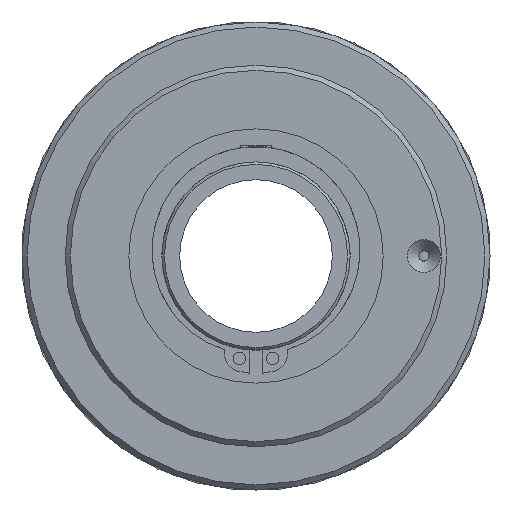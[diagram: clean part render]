
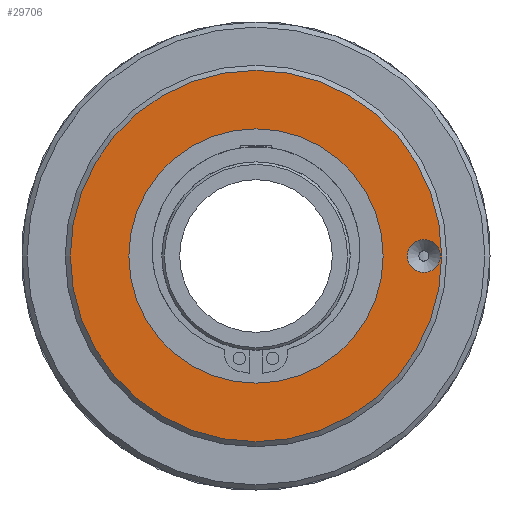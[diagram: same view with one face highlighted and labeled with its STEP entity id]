
A CAD part, left-side view. The second image highlights one B-rep face of the part: STEP entity #29706.
In plain terms, the highlighted planar face has unit normal (-1, 0, 0).
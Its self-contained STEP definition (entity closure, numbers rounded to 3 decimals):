
#2242=FACE_BOUND('',#4870,.T.);
#2243=FACE_BOUND('',#4871,.T.);
#2469=PLANE('',#33059);
#3383=FACE_OUTER_BOUND('',#4869,.T.);
#4869=EDGE_LOOP('',(#25265));
#4870=EDGE_LOOP('',(#25266));
#4871=EDGE_LOOP('',(#25267));
#11002=CIRCLE('',#33054,3.25);
#11004=CIRCLE('',#33058,36.5);
#11005=CIRCLE('',#33060,25.);
#14009=VERTEX_POINT('',#51467);
#14011=VERTEX_POINT('',#51475);
#14012=VERTEX_POINT('',#51479);
#18022=EDGE_CURVE('',#14009,#14009,#11002,.T.);
#18027=EDGE_CURVE('',#14011,#14011,#11004,.T.);
#18028=EDGE_CURVE('',#14012,#14012,#11005,.T.);
#25265=ORIENTED_EDGE('',*,*,#18027,.F.);
#25266=ORIENTED_EDGE('',*,*,#18022,.T.);
#25267=ORIENTED_EDGE('',*,*,#18028,.T.);
#29706=ADVANCED_FACE('',(#3383,#2242,#2243),#2469,.T.);
#33054=AXIS2_PLACEMENT_3D('',#51468,#41112,#41113);
#33058=AXIS2_PLACEMENT_3D('',#51477,#41123,#41124);
#33059=AXIS2_PLACEMENT_3D('',#51478,#41125,#41126);
#33060=AXIS2_PLACEMENT_3D('',#51480,#41127,#41128);
#41112=DIRECTION('center_axis',(1.,0.,0.));
#41113=DIRECTION('ref_axis',(0.,0.,-1.));
#41123=DIRECTION('center_axis',(1.,0.,0.));
#41124=DIRECTION('ref_axis',(0.,-1.,0.));
#41125=DIRECTION('center_axis',(-1.,0.,0.));
#41126=DIRECTION('ref_axis',(0.,0.,
1.));
#41127=DIRECTION('center_axis',(1.,0.,0.));
#41128=DIRECTION('ref_axis',(0.,0.,-1.));
#51467=CARTESIAN_POINT('',(-19.5,-33.,3.25));
#51468=CARTESIAN_POINT('Origin',(-19.5,-33.,0.));
#51475=CARTESIAN_POINT('',(-19.5,36.5,0.));
#51477=CARTESIAN_POINT('Origin',(-19.5,0.,0.));
#51478=CARTESIAN_POINT('Origin',(-19.5,40.5,0.));
#51479=CARTESIAN_POINT('',(-19.5,-25.,0.));
#51480=CARTESIAN_POINT('Origin',(-19.5,0.,0.));
